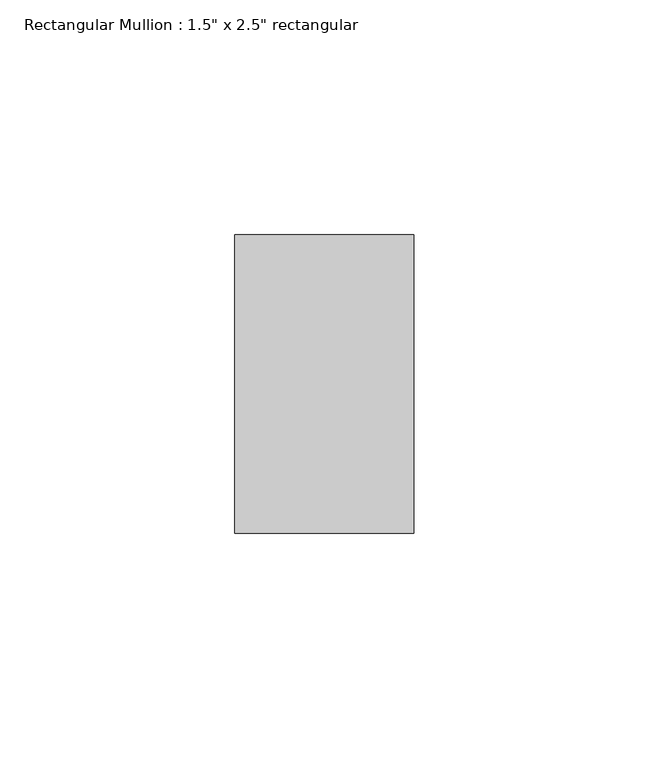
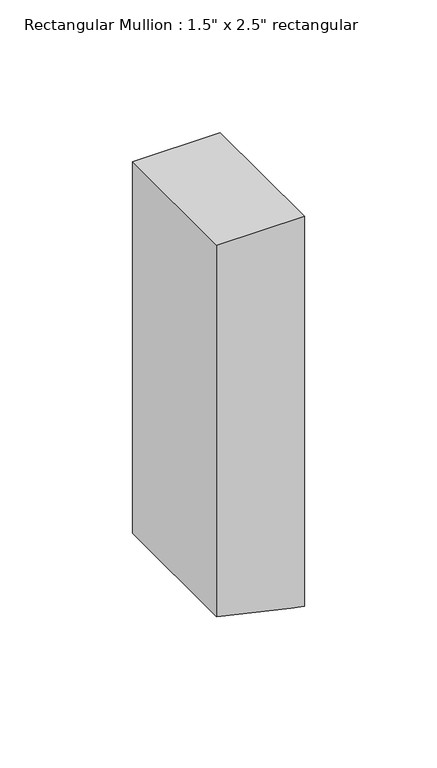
"""IFC4 building model written with IfcOpenShell, lengths in millimetres: member geometry."""

from ifc_helpers import new_model, si_unit, frame, origin, place, context, project, spatial, polyline, outline, extrude, source, transform, mapped, element, save


def member_3e6eb2ff(model_context):
    return source(origin(), model_context, "Body", "SweptSolid", [
        extrude(outline(polyline([(0.0, 19.05), (0.0, -19.05), (-170.9155062, -19.05), (-178.1681335, 13.2390636), (-179.3405396, 19.05), (0.0, 19.05)])), frame((0.0, -31.75, 0.0), z_axis=(0.0, 1.0, 0.0), x_axis=(0.0, 0.0, 1.0)), (0.0, 0.0, 1.0), 63.5),
    ])


if __name__ == "__main__":
    model = new_model("IFC4")
    model_context = context("Model", 3, world=origin())
    ifc_project = project(units=[si_unit("LENGTHUNIT", "METRE", prefix="MILLI")], contexts=[model_context])
    site = spatial("IfcSite", under=ifc_project)
    building = spatial("IfcBuilding", under=site)
    placement = place(None, origin())
    member_shape = member_3e6eb2ff(model_context)
    element("IfcMember", 1, ObjectType="Rectangular Mullion : 1.5\" x 2.5\" rectangular", at=placement, inside=building, context=model_context, shape_type="MappedRepresentation", body=[
        mapped(member_shape, transform((0.0, 0.0, 0.0), x_axis=(1.0, 0.0, 0.0), y_axis=(0.0, 1.0, 0.0), z_axis=(0.0, 0.0, 1.0))),
    ])
    save(model, "model.ifc")
